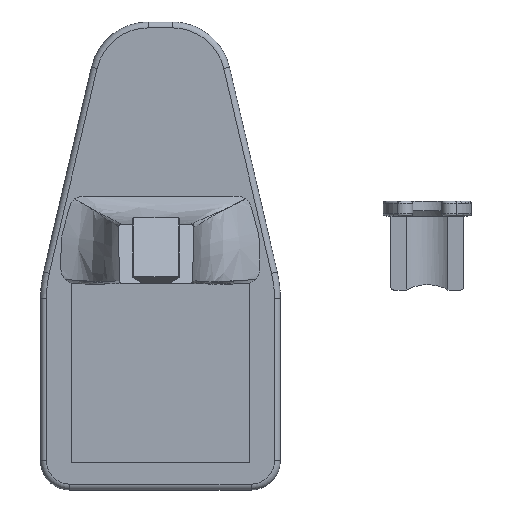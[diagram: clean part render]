
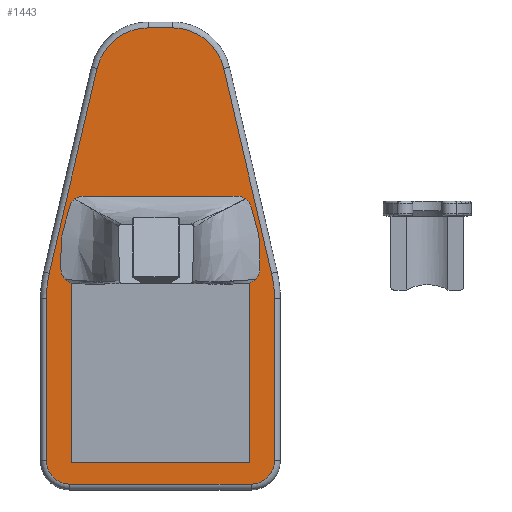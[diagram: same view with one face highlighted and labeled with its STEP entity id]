
A CAD part, top view. The second image highlights one B-rep face of the part: STEP entity #1443.
In plain terms, the highlighted planar face has unit normal (0, 0, 1).
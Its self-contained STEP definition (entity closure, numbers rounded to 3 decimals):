
#39=FACE_BOUND('',#221,.T.);
#94=B_SPLINE_CURVE_WITH_KNOTS('',3,(#2423,#2424,#2425,#2426,#2427,#2428,
#2429,#2430,#2431,#2432,#2433,#2434),.UNSPECIFIED.,.F.,.F.,(4,2,2,2,2,4),
(0.,0.113,0.405,0.592,0.864,
1.),.UNSPECIFIED.);
#100=B_SPLINE_CURVE_WITH_KNOTS('',3,(#2687,#2688,#2689,#2690,#2691,#2692,
#2693,#2694,#2695,#2696,#2697,#2698),.UNSPECIFIED.,.F.,.F.,(4,2,2,2,2,4),
(0.,0.136,0.408,0.595,0.887,
1.),.UNSPECIFIED.);
#102=B_SPLINE_CURVE_WITH_KNOTS('',3,(#2809,#2810,#2811,#2812,#2813,#2814,
#2815,#2816),.UNSPECIFIED.,.F.,.F.,(4,2,2,4),(0.,0.055,0.945,
1.),.UNSPECIFIED.);
#103=B_SPLINE_CURVE_WITH_KNOTS('',3,(#2919,#2920,#2921,#2922),
 .UNSPECIFIED.,.F.,.F.,(4,4),(0.94,1.),.UNSPECIFIED.);
#104=B_SPLINE_CURVE_WITH_KNOTS('',3,(#2925,#2926,#2927,#2928),
 .UNSPECIFIED.,.F.,.F.,(4,4),(0.,0.06),.UNSPECIFIED.);
#132=FACE_OUTER_BOUND('',#220,.T.);
#220=EDGE_LOOP('',(#1035,#1036,#1037,#1038,#1039,#1040,#1041,#1042,#1043,
#1044,#1045,#1046));
#221=EDGE_LOOP('',(#1047,#1048,#1049,#1050,#1051,#1052,#1053,#1054,#1055,
#1056));
#309=LINE('',#2934,#420);
#310=LINE('',#2938,#421);
#311=LINE('',#2942,#422);
#312=LINE('',#2946,#423);
#313=LINE('',#2950,#424);
#314=LINE('',#2953,#425);
#315=LINE('',#2955,#426);
#316=LINE('',#2957,#427);
#317=LINE('',#2959,#428);
#318=LINE('',#2961,#429);
#319=LINE('',#2962,#430);
#420=VECTOR('',#1731,10.);
#421=VECTOR('',#1734,10.);
#422=VECTOR('',#1737,10.);
#423=VECTOR('',#1740,10.);
#424=VECTOR('',#1743,10.);
#425=VECTOR('',#1746,10.);
#426=VECTOR('',#1747,10.);
#427=VECTOR('',#1748,10.);
#428=VECTOR('',#1749,10.);
#429=VECTOR('',#1750,10.);
#430=VECTOR('',#1751,10.);
#518=CIRCLE('',#1543,8.);
#519=CIRCLE('',#1544,38.);
#520=CIRCLE('',#1545,18.);
#521=CIRCLE('',#1546,18.);
#522=CIRCLE('',#1547,38.);
#523=CIRCLE('',#1548,8.);
#598=VERTEX_POINT('',#2228);
#609=VERTEX_POINT('',#2422);
#610=VERTEX_POINT('',#2596);
#611=VERTEX_POINT('',#2673);
#612=VERTEX_POINT('',#2918);
#613=VERTEX_POINT('',#2923);
#614=VERTEX_POINT('',#2930);
#615=VERTEX_POINT('',#2931);
#616=VERTEX_POINT('',#2933);
#617=VERTEX_POINT('',#2935);
#618=VERTEX_POINT('',#2937);
#619=VERTEX_POINT('',#2939);
#620=VERTEX_POINT('',#2941);
#621=VERTEX_POINT('',#2943);
#622=VERTEX_POINT('',#2945);
#623=VERTEX_POINT('',#2947);
#624=VERTEX_POINT('',#2949);
#625=VERTEX_POINT('',#2951);
#626=VERTEX_POINT('',#2954);
#627=VERTEX_POINT('',#2956);
#628=VERTEX_POINT('',#2958);
#629=VERTEX_POINT('',#2960);
#758=EDGE_CURVE('',#609,#598,#94,.T.);
#764=EDGE_CURVE('',#610,#611,#100,.T.);
#766=EDGE_CURVE('',#611,#609,#102,.T.);
#767=EDGE_CURVE('',#612,#610,#103,.T.);
#769=EDGE_CURVE('',#598,#613,#104,.T.);
#770=EDGE_CURVE('',#614,#615,#518,.T.);
#771=EDGE_CURVE('',#616,#614,#309,.T.);
#772=EDGE_CURVE('',#617,#616,#519,.T.);
#773=EDGE_CURVE('',#618,#617,#310,.T.);
#774=EDGE_CURVE('',#619,#618,#520,.T.);
#775=EDGE_CURVE('',#620,#619,#311,.T.);
#776=EDGE_CURVE('',#621,#620,#521,.T.);
#777=EDGE_CURVE('',#622,#621,#312,.T.);
#778=EDGE_CURVE('',#623,#622,#522,.T.);
#779=EDGE_CURVE('',#624,#623,#313,.T.);
#780=EDGE_CURVE('',#625,#624,#523,.T.);
#781=EDGE_CURVE('',#615,#625,#314,.T.);
#782=EDGE_CURVE('',#613,#626,#315,.T.);
#783=EDGE_CURVE('',#626,#627,#316,.T.);
#784=EDGE_CURVE('',#627,#628,#317,.T.);
#785=EDGE_CURVE('',#628,#629,#318,.T.);
#786=EDGE_CURVE('',#629,#612,#319,.T.);
#1035=ORIENTED_EDGE('',*,*,#770,.F.);
#1036=ORIENTED_EDGE('',*,*,#771,.F.);
#1037=ORIENTED_EDGE('',*,*,#772,.F.);
#1038=ORIENTED_EDGE('',*,*,#773,.F.);
#1039=ORIENTED_EDGE('',*,*,#774,.F.);
#1040=ORIENTED_EDGE('',*,*,#775,.F.);
#1041=ORIENTED_EDGE('',*,*,#776,.F.);
#1042=ORIENTED_EDGE('',*,*,#777,.F.);
#1043=ORIENTED_EDGE('',*,*,#778,.F.);
#1044=ORIENTED_EDGE('',*,*,#779,.F.);
#1045=ORIENTED_EDGE('',*,*,#780,.F.);
#1046=ORIENTED_EDGE('',*,*,#781,.F.);
#1047=ORIENTED_EDGE('',*,*,#767,.T.);
#1048=ORIENTED_EDGE('',*,*,#764,.T.);
#1049=ORIENTED_EDGE('',*,*,#766,.T.);
#1050=ORIENTED_EDGE('',*,*,#758,.T.);
#1051=ORIENTED_EDGE('',*,*,#769,.T.);
#1052=ORIENTED_EDGE('',*,*,#782,.T.);
#1053=ORIENTED_EDGE('',*,*,#783,.T.);
#1054=ORIENTED_EDGE('',*,*,#784,.T.);
#1055=ORIENTED_EDGE('',*,*,#785,.T.);
#1056=ORIENTED_EDGE('',*,*,#786,.T.);
#1398=PLANE('',#1542);
#1443=ADVANCED_FACE('',(#132,#39),#1398,.T.);
#1542=AXIS2_PLACEMENT_3D('',#2929,#1727,#1728);
#1543=AXIS2_PLACEMENT_3D('',#2932,#1729,#1730);
#1544=AXIS2_PLACEMENT_3D('',#2936,#1732,#1733);
#1545=AXIS2_PLACEMENT_3D('',#2940,#1735,#1736);
#1546=AXIS2_PLACEMENT_3D('',#2944,#1738,#1739);
#1547=AXIS2_PLACEMENT_3D('',#2948,#1741,#1742);
#1548=AXIS2_PLACEMENT_3D('',#2952,#1744,#1745);
#1727=DIRECTION('center_axis',(0.,0.,1.));
#1728=DIRECTION('ref_axis',(1.,0.,0.));
#1729=DIRECTION('center_axis',(0.,0.,-1.));
#1730=DIRECTION('ref_axis',(0.707,-0.707,0.));
#1731=DIRECTION('',(0.,-1.,0.));
#1732=DIRECTION('center_axis',(0.,0.,-1.));
#1733=DIRECTION('ref_axis',(0.993,0.114,0.));
#1734=DIRECTION('',(0.227,-0.974,0.));
#1735=DIRECTION('center_axis',(0.,0.,-1.));
#1736=DIRECTION('ref_axis',(0.622,0.783,0.));
#1737=DIRECTION('',(1.,0.,0.));
#1738=DIRECTION('center_axis',(0.,0.,-1.));
#1739=DIRECTION('ref_axis',(-0.622,0.783,0.));
#1740=DIRECTION('',(0.227,0.974,0.));
#1741=DIRECTION('center_axis',(0.,0.,-1.));
#1742=DIRECTION('ref_axis',(-0.993,0.114,0.));
#1743=DIRECTION('',(0.,1.,0.));
#1744=DIRECTION('center_axis',(0.,0.,-1.));
#1745=DIRECTION('ref_axis',(-0.707,-0.707,0.));
#1746=DIRECTION('',(-1.,0.,0.));
#1747=DIRECTION('',(1.,0.,0.));
#1748=DIRECTION('',(0.,-1.,0.));
#1749=DIRECTION('',(-1.,0.,0.));
#1750=DIRECTION('',(0.,1.,0.));
#1751=DIRECTION('',(1.,0.,0.));
#2228=CARTESIAN_POINT('',(32.334,-8.036,8.));
#2422=CARTESIAN_POINT('',(29.023,19.48,8.));
#2423=CARTESIAN_POINT('Ctrl Pts',(29.023,19.48,8.));
#2424=CARTESIAN_POINT('Ctrl Pts',(29.885,18.824,8.));
#2425=CARTESIAN_POINT('Ctrl Pts',(30.525,17.881,8.));
#2426=CARTESIAN_POINT('Ctrl Pts',(31.565,14.123,8.));
#2427=CARTESIAN_POINT('Ctrl Pts',(32.318,11.412,8.));
#2428=CARTESIAN_POINT('Ctrl Pts',(33.552,6.961,8.));
#2429=CARTESIAN_POINT('Ctrl Pts',(33.798,5.158,8.));
#2430=CARTESIAN_POINT('Ctrl Pts',(33.798,0.737,8.));
#2431=CARTESIAN_POINT('Ctrl Pts',(33.794,-1.88,8.));
#2432=CARTESIAN_POINT('Ctrl Pts',(33.8,-5.809,8.));
#2433=CARTESIAN_POINT('Ctrl Pts',(33.259,-7.11,8.));
#2434=CARTESIAN_POINT('Ctrl Pts',(32.334,-8.036,8.));
#2596=CARTESIAN_POINT('',(-32.737,-8.036,8.));
#2673=CARTESIAN_POINT('',(-29.426,19.48,8.));
#2687=CARTESIAN_POINT('Ctrl Pts',(-32.737,-8.036,8.));
#2688=CARTESIAN_POINT('Ctrl Pts',(-33.663,-7.11,8.));
#2689=CARTESIAN_POINT('Ctrl Pts',(-34.204,-5.809,8.));
#2690=CARTESIAN_POINT('Ctrl Pts',(-34.197,-1.88,8.));
#2691=CARTESIAN_POINT('Ctrl Pts',(-34.201,0.737,8.));
#2692=CARTESIAN_POINT('Ctrl Pts',(-34.201,5.158,8.));
#2693=CARTESIAN_POINT('Ctrl Pts',(-33.956,6.962,8.));
#2694=CARTESIAN_POINT('Ctrl Pts',(-32.722,11.412,8.));
#2695=CARTESIAN_POINT('Ctrl Pts',(-31.968,14.123,8.));
#2696=CARTESIAN_POINT('Ctrl Pts',(-30.929,17.881,8.));
#2697=CARTESIAN_POINT('Ctrl Pts',(-30.289,18.824,8.));
#2698=CARTESIAN_POINT('Ctrl Pts',(-29.426,19.48,8.));
#2809=CARTESIAN_POINT('Ctrl Pts',(-29.426,19.48,8.));
#2810=CARTESIAN_POINT('Ctrl Pts',(-28.564,20.136,8.));
#2811=CARTESIAN_POINT('Ctrl Pts',(-27.483,20.5,8.));
#2812=CARTESIAN_POINT('Ctrl Pts',(-8.931,20.495,8.));
#2813=CARTESIAN_POINT('Ctrl Pts',(8.527,20.495,8.));
#2814=CARTESIAN_POINT('Ctrl Pts',(27.08,20.5,8.));
#2815=CARTESIAN_POINT('Ctrl Pts',(28.16,20.136,8.));
#2816=CARTESIAN_POINT('Ctrl Pts',(29.023,19.48,8.));
#2918=CARTESIAN_POINT('',(-29.202,-9.5,8.));
#2919=CARTESIAN_POINT('Ctrl Pts',(-29.202,-9.5,8.));
#2920=CARTESIAN_POINT('Ctrl Pts',(-30.512,-9.502,8.));
#2921=CARTESIAN_POINT('Ctrl Pts',(-31.812,-8.961,8.));
#2922=CARTESIAN_POINT('Ctrl Pts',(-32.737,-8.036,8.));
#2923=CARTESIAN_POINT('',(28.798,-9.5,8.));
#2925=CARTESIAN_POINT('Ctrl Pts',(32.334,-8.036,8.));
#2926=CARTESIAN_POINT('Ctrl Pts',(31.408,-8.961,8.));
#2927=CARTESIAN_POINT('Ctrl Pts',(30.108,-9.502,8.));
#2928=CARTESIAN_POINT('Ctrl Pts',(28.798,-9.5,8.));
#2929=CARTESIAN_POINT('Origin',(-0.202,0.,
8.));
#2930=CARTESIAN_POINT('',(38.798,-70.,8.));
#2931=CARTESIAN_POINT('',(30.798,-78.,8.));
#2932=CARTESIAN_POINT('Origin',(30.798,-70.,8.));
#2933=CARTESIAN_POINT('',(38.798,-14.605,8.));
#2934=CARTESIAN_POINT('',(38.798,-35.,8.));
#2935=CARTESIAN_POINT('',(37.804,-5.97,8.));
#2936=CARTESIAN_POINT('Origin',(0.798,-14.605,8.));
#2937=CARTESIAN_POINT('',(21.457,64.09,8.));
#2938=CARTESIAN_POINT('',(36.163,1.066,8.));
#2939=CARTESIAN_POINT('',(3.928,78.,8.));
#2940=CARTESIAN_POINT('Origin',(3.928,60.,8.));
#2941=CARTESIAN_POINT('',(-4.331,78.,8.));
#2942=CARTESIAN_POINT('',(1.863,78.,8.));
#2943=CARTESIAN_POINT('',(-21.86,64.09,8.));
#2944=CARTESIAN_POINT('Origin',(-4.331,60.,8.));
#2945=CARTESIAN_POINT('',(-38.208,-5.97,8.));
#2946=CARTESIAN_POINT('',(-28.392,36.096,8.));
#2947=CARTESIAN_POINT('',(-39.202,-14.605,8.));
#2948=CARTESIAN_POINT('Origin',(-1.202,-14.605,8.));
#2949=CARTESIAN_POINT('',(-39.202,-70.,8.));
#2950=CARTESIAN_POINT('',(-39.202,-7.302,8.));
#2951=CARTESIAN_POINT('',(-31.202,-78.,8.));
#2952=CARTESIAN_POINT('Origin',(-31.202,-70.,8.));
#2953=CARTESIAN_POINT('',(-15.702,-78.,8.));
#2954=CARTESIAN_POINT('',(30.298,-9.5,8.));
#2955=CARTESIAN_POINT('',(15.048,-9.5,8.));
#2956=CARTESIAN_POINT('',(30.298,-70.5,8.));
#2957=CARTESIAN_POINT('',(30.298,-35.25,8.));
#2958=CARTESIAN_POINT('',(-30.702,-70.5,8.));
#2959=CARTESIAN_POINT('',(-15.452,-70.5,8.));
#2960=CARTESIAN_POINT('',(-30.702,-9.5,8.));
#2961=CARTESIAN_POINT('',(-30.702,-4.75,8.));
#2962=CARTESIAN_POINT('',(15.048,-9.5,8.));
